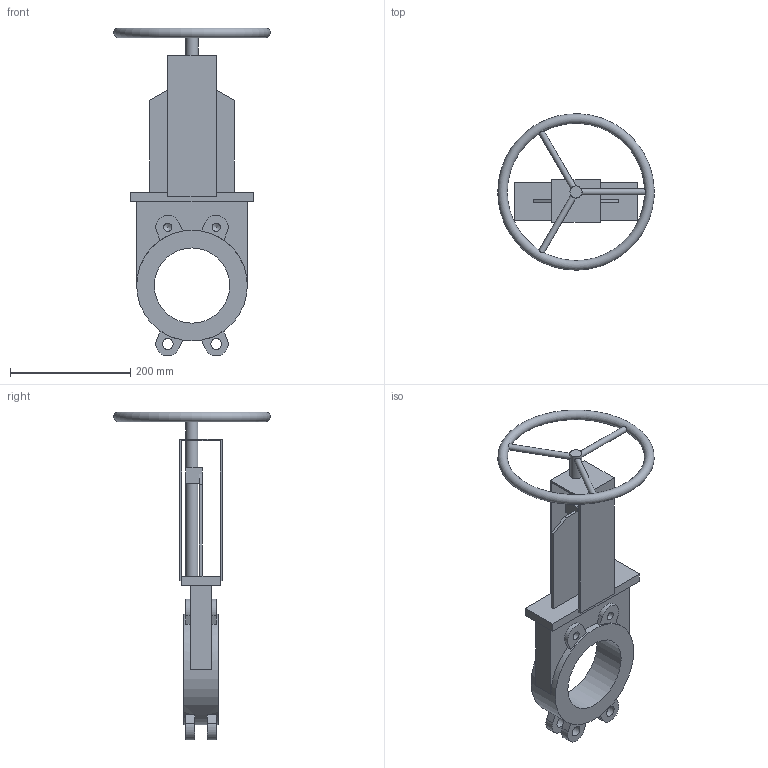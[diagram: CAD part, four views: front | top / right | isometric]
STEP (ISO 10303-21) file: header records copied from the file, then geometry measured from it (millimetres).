
FILE_DESCRIPTION(('STEP AP203'), '1');
FILE_NAME('Çàäâèæêà øèáåðíàÿ ìåæôëàíöåâàÿ K21GV DN125', '', ('UNSPECIFIED'), ('UNSPECIFIED'), 'ASCON STEP Converter 1.6', 'ASCON Math Kernel', '');
FILE_SCHEMA(('CONFIG_CONTROL_DESIGN'));
Length unit declared in the file: millimetre
Bounding box: 259.98 x 259.84 x 544.99 mm (x, y, z)
Volume: 2062712.8 mm3; surface area: 354196 mm2
Topology: 1 solids, 1 shells, 93 faces, 251 edges, 164 vertices
Faces by surface type: plane 64, cylinder 24, cone 4, torus 1
Full cylindrical faces by diameter (mm): 10 x3, 13.835 x4, 18 x4, 20 x3, 125 x1, 184 x1
Entity records: 4666 total; most frequent: CARTESIAN_POINT 1585, DIRECTION 466, ORIENTED_EDGE 446, EDGE_CURVE 223, VERTEX_POINT 159, AXIS2_PLACEMENT_3D 156, LINE 154, VECTOR 154
